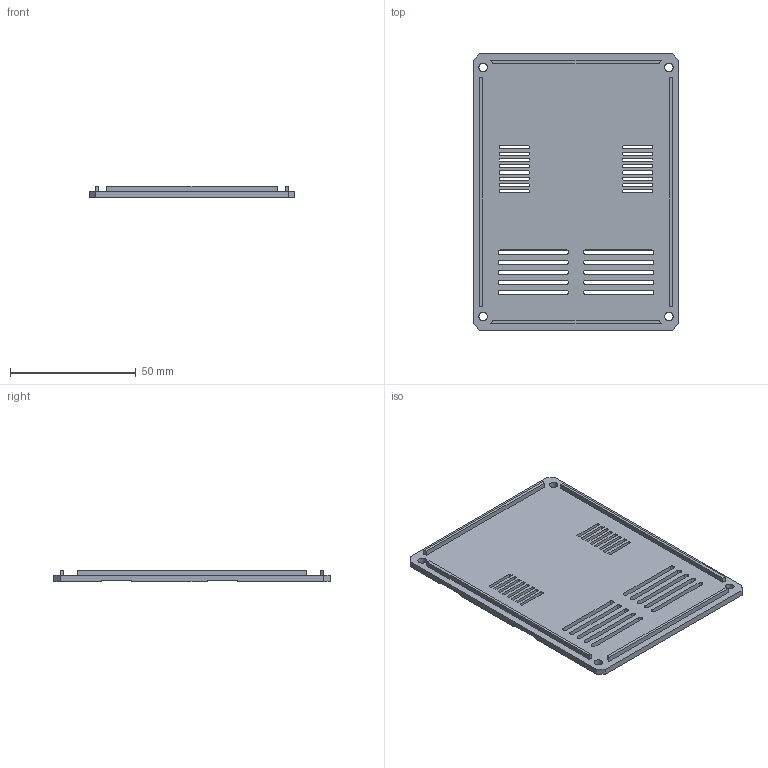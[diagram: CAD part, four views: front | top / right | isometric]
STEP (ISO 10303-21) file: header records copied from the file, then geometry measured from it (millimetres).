
FILE_DESCRIPTION(('Open CASCADE Model'),'2;1');
FILE_NAME('Open CASCADE Shape Model','2026-09-07T22:44:26',('Author'),( 'Open CASCADE'),'Open CASCADE STEP processor 7.9','build123d', 'Unknown');
FILE_SCHEMA(('AUTOMOTIVE_DESIGN { 1 0 10303 214 1 1 1 1 }'));
Length unit declared in the file: millimetre
Products named in the file (2): =>[0:1:1:2]; COMPOUND
Assembly tree (1 placements, depth 2):
  =>[0:1:1:2]
    COMPOUND
Bounding box: 82 x 110 x 4.4 mm (x, y, z)
Volume: 19016.2 mm3; surface area: 21659.7 mm2
Topology: 1 solids, 1 shells, 488 faces, 1461 edges, 974 vertices
Faces by surface type: plane 364, extrusion 72, cylinder 52
Full cylindrical faces by diameter (mm): 3.4 x4
Entity records: 36358 total; most frequent: CARTESIAN_POINT 9835, DIRECTION 3955, ORIENTED_EDGE 2922, PCURVE 2922, DEFINITIONAL_REPRESENTATION 2922, VECTOR 2887, LINE 2815, EDGE_CURVE 1461
